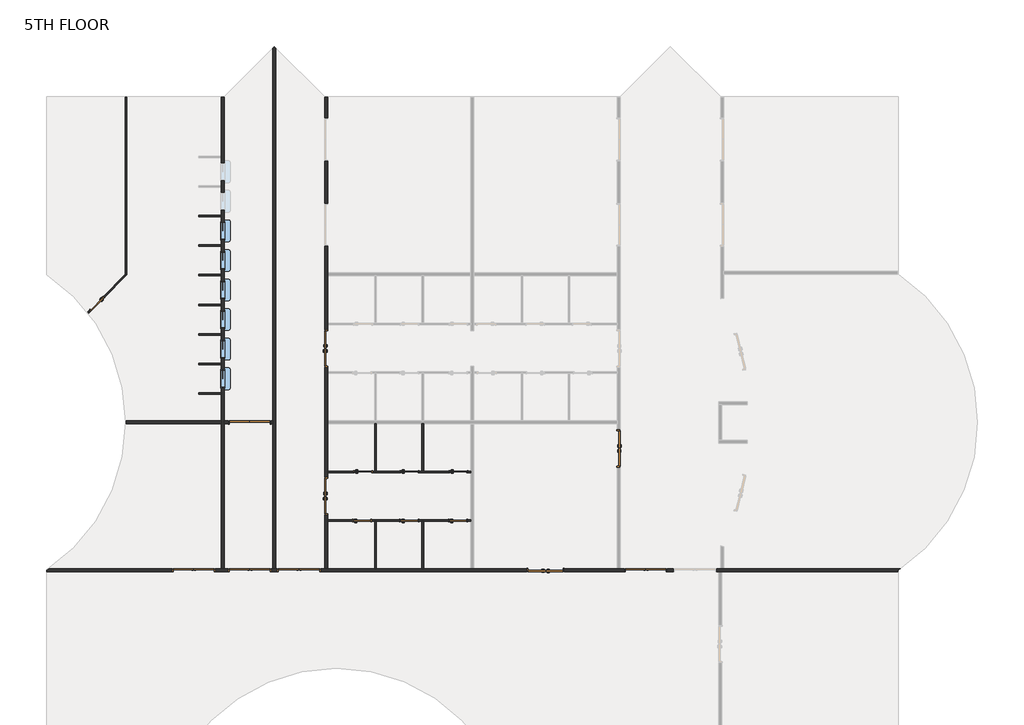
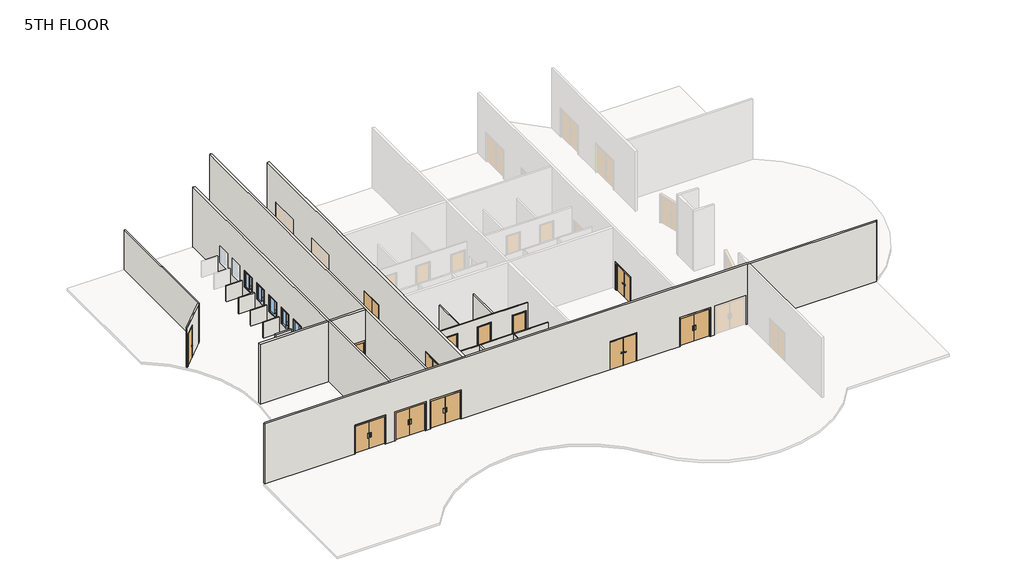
# One storey, part 1 of 2: 20 walls, 16 doors, 6 windows.
"""IFC4 building model written with IfcOpenShell, lengths in millimetres."""

from ifc_helpers import new_model, si_unit, point, frame, frame_2d, origin, place, context, project, spatial, polyline, circle_curve, trimmed, segment, composite_curve, outline, extrude, faceted_brep, transform, mapped, element, save
from ifc_brep_helpers import plane_surface, cylinder_surface, revolved_surface, advanced_brep
from components import door_2f250f70, door_0b13e4d9, door_b3a27a16, door_979b1b8c, door_f8b587be, pass_thru_4x3_19d81059

model = new_model("IFC4")

# Units and contexts
model_context = context("Model", 3, world=origin())
ifc_project = project(units=[si_unit("LENGTHUNIT", "METRE", prefix="MILLI")], contexts=[model_context])

# Site, building, storey
site = spatial("IfcSite", under=ifc_project)
building = spatial("IfcBuilding", under=site)
storey = spatial("IfcBuildingStorey", under=building, Name="5TH FLOOR", Elevation=22860.0)

# Doors
placement = place(None, origin())
door_shape = door_2f250f70(model_context)
element("IfcDoor", 1, ObjectType="Door-Passage-Double-Flush : 72\" x 82\"", at=placement, inside=storey, context=model_context, shape_type="MappedRepresentation", body=[
    mapped(door_shape, transform((14556.3400257, 13109.575, 22860.0), x_axis=(0.0, 1.0, 0.0), y_axis=(-1.0, 0.0, 0.0), z_axis=(0.0, 0.0, 1.0))),
])
element("IfcDoor", 2, ObjectType="Door-Passage-Double-Flush : 72\" x 82\"", at=placement, inside=storey, context=model_context, shape_type="MappedRepresentation", body=[
    mapped(door_shape, transform((14556.3400257, 20729.575, 22860.0), x_axis=(0.0, 1.0, 0.0), y_axis=(-1.0, 0.0, 0.0), z_axis=(0.0, 0.0, 1.0))),
])
element("IfcDoor", 3, ObjectType="Door-Passage-Double-Flush : 72\" x 82\"", at=placement, inside=storey, context=model_context, shape_type="MappedRepresentation", body=[
    mapped(door_shape, transform((25872.8337757, 9305.925, 22860.0), x_axis=(-1.0, 0.0, 0.0), y_axis=(0.0, -1.0, 0.0), z_axis=(0.0, 0.0, 1.0))),
])
element("IfcDoor", 4, ObjectType="Door-Passage-Double-Flush : 72\" x 82\"", at=placement, inside=storey, context=model_context, shape_type="MappedRepresentation", body=[
    mapped(door_shape, transform((29628.0650257, 15571.7875, 22860.0), x_axis=(0.0, -1.0, 0.0), y_axis=(1.0, 0.0, 0.0), z_axis=(0.0, 0.0, 1.0))),
])
door_2_shape = door_0b13e4d9(model_context)
element("IfcDoor", 5, ObjectType="Door-Passage-Double-Flush-Dbl_Acting : 84\" x 84\"", at=placement, inside=storey, context=model_context, shape_type="MappedRepresentation", body=[
    mapped(door_2_shape, transform((13151.4025257, 9293.225, 22860.0), x_axis=(-1.0, 0.0, 0.0), y_axis=(0.0, -1.0, 0.0), z_axis=(0.0, 0.0, 1.0))),
])
door_3_shape = door_b3a27a16(model_context)
element("IfcDoor", 6, ObjectType="Door-Passage-Double-Flush-Dbl_Acting : 84\" x 84\"", at=placement, inside=storey, context=model_context, shape_type="MappedRepresentation", body=[
    mapped(door_3_shape, transform((31033.0025257, 9293.225, 22860.0), x_axis=(1.0, 0.0, 0.0), y_axis=(0.0, 1.0, 0.0), z_axis=(0.0, 0.0, 1.0))),
])
element("IfcDoor", 7, ObjectType="Door-Passage-Double-Flush-Dbl_Acting : 84\" x 84\"", at=placement, inside=storey, context=model_context, shape_type="MappedRepresentation", body=[
    mapped(door_3_shape, transform((10620.375, 9293.225, 22860.0), x_axis=(1.0, 0.0, 0.0), y_axis=(0.0, 1.0, 0.0), z_axis=(0.0, 0.0, 1.0))),
])
element("IfcDoor", 8, ObjectType="Door-Passage-Double-Flush-Dbl_Acting : 84\" x 84\"", at=placement, inside=storey, context=model_context, shape_type="MappedRepresentation", body=[
    mapped(door_3_shape, transform((7730.5724743, 9293.225, 22860.0), x_axis=(1.0, 0.0, 0.0), y_axis=(0.0, 1.0, 0.0), z_axis=(0.0, 0.0, 1.0))),
])
element("IfcDoor", 9, ObjectType="Door-Passage-Double-Flush-Dbl_Acting : 84\" x 84\"", at=placement, inside=storey, context=model_context, shape_type="MappedRepresentation", body=[
    mapped(door_3_shape, transform((10620.375, 16913.225, 22860.0), x_axis=(1.0, 0.0, 0.0), y_axis=(0.0, 1.0, 0.0), z_axis=(0.0, 0.0, 1.0))),
])
door_4_shape = door_979b1b8c(model_context)
element("IfcDoor", 10, ObjectType="Door-Passage-Single-Flush : 36\" x 96\"", at=placement, inside=storey, context=model_context, shape_type="MappedRepresentation", body=[
    mapped(door_4_shape, transform((16456.5775257, 14357.35, 22860.0), x_axis=(1.0, 0.0, 0.0), y_axis=(0.0, 1.0, 0.0), z_axis=(0.0, 0.0, 1.0))),
])
element("IfcDoor", 11, ObjectType="Door-Passage-Single-Flush : 36\" x 96\"", at=placement, inside=storey, context=model_context, shape_type="MappedRepresentation", body=[
    mapped(door_4_shape, transform((18855.2900257, 14357.35, 22860.0), x_axis=(1.0, 0.0, 0.0), y_axis=(0.0, 1.0, 0.0), z_axis=(0.0, 0.0, 1.0))),
])
element("IfcDoor", 12, ObjectType="Door-Passage-Single-Flush : 36\" x 96\"", at=placement, inside=storey, context=model_context, shape_type="MappedRepresentation", body=[
    mapped(door_4_shape, transform((21373.0650257, 14357.35, 22860.0), x_axis=(1.0, 0.0, 0.0), y_axis=(0.0, 1.0, 0.0), z_axis=(0.0, 0.0, 1.0))),
])
element("IfcDoor", 13, ObjectType="Door-Passage-Single-Flush : 36\" x 96\"", at=placement, inside=storey, context=model_context, shape_type="MappedRepresentation", body=[
    mapped(door_4_shape, transform((2731.3607977, 23031.2061406, 22860.0), x_axis=(-0.7071067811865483, -0.7071067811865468, 0.0), y_axis=(0.7071067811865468, -0.7071067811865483, 0.0), z_axis=(0.0, 0.0, 1.0))),
])
door_5_shape = door_f8b587be(model_context)
element("IfcDoor", 14, ObjectType="Door-Passage-Single-Flush : 36\" x 96\"", at=placement, inside=storey, context=model_context, shape_type="MappedRepresentation", body=[
    mapped(door_5_shape, transform((16405.7775257, 11861.8, 22860.0), x_axis=(1.0, 0.0, 0.0), y_axis=(0.0, 1.0, 0.0), z_axis=(0.0, 0.0, 1.0))),
])
element("IfcDoor", 15, ObjectType="Door-Passage-Single-Flush : 36\" x 96\"", at=placement, inside=storey, context=model_context, shape_type="MappedRepresentation", body=[
    mapped(door_5_shape, transform((18836.2400257, 11861.8, 22860.0), x_axis=(1.0, 0.0, 0.0), y_axis=(0.0, 1.0, 0.0), z_axis=(0.0, 0.0, 1.0))),
])
element("IfcDoor", 16, ObjectType="Door-Passage-Single-Flush : 36\" x 96\"", at=placement, inside=storey, context=model_context, shape_type="MappedRepresentation", body=[
    mapped(door_5_shape, transform((21354.0150257, 11861.8, 22860.0), x_axis=(1.0, 0.0, 0.0), y_axis=(0.0, 1.0, 0.0), z_axis=(0.0, 0.0, 1.0))),
])

# Walls
element("IfcWall", 17, ObjectType="SYR_INT_ONE_HOUR", at=placement, inside=storey, context=model_context, shape_type="SweptSolid", body=[
    extrude(outline(polyline([(17066.1775257, 14403.3875), (17066.1775257, 16841.7875), (17145.5525257, 16841.7875), (17145.5525257, 14403.3875), (17066.1775257, 14403.3875)])), frame((0.0, 0.0, 22860.0), z_axis=(0.0, 0.0, 1.0), x_axis=(1.0, 0.0, 0.0)), (0.0, 0.0, 1.0), 3048.0),
])
element("IfcWall", 18, ObjectType="SYR_INT_ONE_HOUR", at=placement, inside=storey, context=model_context, shape_type="SweptSolid", body=[
    extrude(outline(polyline([(19576.0150257, 11815.7625), (19576.0150257, 9377.3625), (19496.6400257, 9377.3625), (19496.6400257, 11815.7625), (19576.0150257, 11815.7625)])), frame((0.0, 0.0, 22860.0), z_axis=(0.0, 0.0, 1.0), x_axis=(1.0, 0.0, 0.0)), (0.0, 0.0, 1.0), 3048.0),
])
element("IfcWall", 19, ObjectType="SYR_INT_ONE_HOUR", at=placement, inside=storey, context=model_context, shape_type="Brep", body=[
    faceted_brep([(14627.7775257, 14403.3875, 25908.0), (17066.1775257, 14403.3875, 25908.0), (17145.5525257, 14403.3875, 25908.0), (19496.6400257, 14403.3875, 25908.0), (19576.0150257, 14403.3875, 25908.0), (22014.4150257, 14403.3875, 25908.0), (22014.4150257, 14403.3875, 22860.0), (21862.0150257, 14403.3875, 22860.0), (21862.0150257, 14403.3875, 25330.15), (20884.1150257, 14403.3875, 25330.15), (20884.1150257, 14403.3875, 22860.0), (19576.0150257, 14403.3875, 22860.0), (19496.6400257, 14403.3875, 22860.0), (19344.2400257, 14403.3875, 22860.0), (19344.2400257, 14403.3875, 25330.15), (18366.3400257, 14403.3875, 25330.15), (18366.3400257, 14403.3875, 22860.0), (17145.5525257, 14403.3875, 22860.0), (17066.1775257, 14403.3875, 22860.0), (16945.5275257, 14403.3875, 22860.0), (16945.5275257, 14403.3875, 25330.15), (15967.6275257, 14403.3875, 25330.15), (15967.6275257, 14403.3875, 22860.0), (14627.7775257, 14403.3875, 22860.0), (22014.4150257, 14324.0125, 25908.0), (14627.7775257, 14324.0125, 25908.0), (14627.7775257, 14324.0125, 22860.0), (15967.6275257, 14324.0125, 22860.0), (15967.6275257, 14324.0125, 25330.15), (16945.5275257, 14324.0125, 25330.15), (16945.5275257, 14324.0125, 22860.0), (18366.3400257, 14324.0125, 22860.0), (18366.3400257, 14324.0125, 25330.15), (19344.2400257, 14324.0125, 25330.15), (19344.2400257, 14324.0125, 22860.0), (20884.1150257, 14324.0125, 22860.0), (20884.1150257, 14324.0125, 25330.15), (21862.0150257, 14324.0125, 25330.15), (21862.0150257, 14324.0125, 22860.0), (22014.4150257, 14324.0125, 22860.0)], [[[0, 1, 2, 3, 4, 5, 6, 7, 8, 9, 10, 11, 12, 13, 14, 15, 16, 17, 18, 19, 20, 21, 22, 23]], [[24, 25, 26, 27, 28, 29, 30, 31, 32, 33, 34, 35, 36, 37, 38, 39]], [[6, 39, 38, 7]], [[26, 23, 22, 27]], [[30, 19, 18, 17, 16, 31]], [[34, 13, 12, 11, 10, 35]], [[5, 4, 3, 2, 1, 0, 25, 24]], [[0, 23, 26, 25]], [[6, 5, 24, 39]], [[29, 20, 19, 30]], [[20, 29, 28, 21]], [[21, 28, 27, 22]], [[14, 13, 34, 33]], [[15, 14, 33, 32]], [[16, 15, 32, 31]], [[37, 8, 7, 38]], [[8, 37, 36, 9]], [[9, 36, 35, 10]]]),
])
element("IfcWall", 20, ObjectType="SYR_INT_ONE_HOUR", at=placement, inside=storey, context=model_context, shape_type="Brep", body=[
    faceted_brep([(14627.7775257, 11895.1375, 25908.0), (22014.4150257, 11895.1375, 25908.0), (22014.4150257, 11895.1375, 22860.0), (21842.9650257, 11895.1375, 22860.0), (21842.9650257, 11895.1375, 25330.15), (20865.0650257, 11895.1375, 25330.15), (20865.0650257, 11895.1375, 22860.0), (19325.1900257, 11895.1375, 22860.0), (19325.1900257, 11895.1375, 25330.15), (18347.2900257, 11895.1375, 25330.15), (18347.2900257, 11895.1375, 22860.0), (16894.7275257, 11895.1375, 22860.0), (16894.7275257, 11895.1375, 25330.15), (15916.8275257, 11895.1375, 25330.15), (15916.8275257, 11895.1375, 22860.0), (14627.7775257, 11895.1375, 22860.0), (22014.4150257, 11815.7625, 25908.0), (19576.0150257, 11815.7625, 25908.0), (19496.6400257, 11815.7625, 25908.0), (17145.5525257, 11815.7625, 25908.0), (17066.1775257, 11815.7625, 25908.0), (14627.7775257, 11815.7625, 25908.0), (14627.7775257, 11815.7625, 22860.0), (15916.8275257, 11815.7625, 22860.0), (15916.8275257, 11815.7625, 25330.15), (16894.7275257, 11815.7625, 25330.15), (16894.7275257, 11815.7625, 22860.0), (17066.1775257, 11815.7625, 22860.0), (17145.5525257, 11815.7625, 22860.0), (18347.2900257, 11815.7625, 22860.0), (18347.2900257, 11815.7625, 25330.15), (19325.1900257, 11815.7625, 25330.15), (19325.1900257, 11815.7625, 22860.0), (19496.6400257, 11815.7625, 22860.0), (19576.0150257, 11815.7625, 22860.0), (20865.0650257, 11815.7625, 22860.0), (20865.0650257, 11815.7625, 25330.15), (21842.9650257, 11815.7625, 25330.15), (21842.9650257, 11815.7625, 22860.0), (22014.4150257, 11815.7625, 22860.0)], [[[0, 1, 2, 3, 4, 5, 6, 7, 8, 9, 10, 11, 12, 13, 14, 15]], [[16, 17, 18, 19, 20, 21, 22, 23, 24, 25, 26, 27, 28, 29, 30, 31, 32, 33, 34, 35, 36, 37, 38, 39]], [[2, 39, 38, 3]], [[22, 15, 14, 23]], [[26, 11, 10, 29, 28, 27]], [[32, 7, 6, 35, 34, 33]], [[1, 0, 21, 20, 19, 18, 17, 16]], [[0, 15, 22, 21]], [[2, 1, 16, 39]], [[25, 12, 11, 26]], [[12, 25, 24, 13]], [[13, 24, 23, 14]], [[31, 8, 7, 32]], [[8, 31, 30, 9]], [[9, 30, 29, 10]], [[37, 4, 3, 38]], [[4, 37, 36, 5]], [[5, 36, 35, 6]]]),
])
element("IfcWall", 21, ObjectType="SYR_INT_ONE_HOUR", at=placement, inside=storey, context=model_context, shape_type="SweptSolid", body=[
    extrude(outline(polyline([(17066.1775257, 9377.3625), (17066.1775257, 11815.7625), (17145.5525257, 11815.7625), (17145.5525257, 9377.3625), (17066.1775257, 9377.3625)])), frame((0.0, 0.0, 22860.0), z_axis=(0.0, 0.0, 1.0), x_axis=(1.0, 0.0, 0.0)), (0.0, 0.0, 1.0), 3048.0),
])
element("IfcWall", 22, ObjectType="SYR_INT_ONE_HOUR", at=placement, inside=storey, context=model_context, shape_type="SweptSolid", body=[
    extrude(outline(polyline([(19576.0150257, 16841.7875), (19576.0150257, 14403.3875), (19496.6400257, 14403.3875), (19496.6400257, 16841.7875), (19576.0150257, 16841.7875)])), frame((0.0, 0.0, 22860.0), z_axis=(0.0, 0.0, 1.0), x_axis=(1.0, 0.0, 0.0)), (0.0, 0.0, 1.0), 3048.0),
])
element("IfcWall", 23, ObjectType="SYR_INT_ONE_HOUR", at=placement, inside=storey, context=model_context, shape_type="SweptSolid", body=[
    extrude(outline(polyline([(7979.2710938, 18443.575), (9144.0, 18443.575), (9144.0, 18364.2), (7979.2710938, 18364.2), (7979.2710938, 18443.575)])), frame((0.0, 0.0, 22860.0), z_axis=(0.0, 0.0, 1.0), x_axis=(1.0, 0.0, 0.0)), (0.0, 0.0, 1.0), 1219.2),
])
element("IfcWall", 24, ObjectType="SYR_INT_ONE_HOUR", at=placement, inside=storey, context=model_context, shape_type="SweptSolid", body=[
    extrude(outline(polyline([(7979.2710938, 19967.575), (9144.0, 19967.575), (9144.0, 19888.2), (7979.2710938, 19888.2), (7979.2710938, 19967.575)])), frame((0.0, 0.0, 22860.0), z_axis=(0.0, 0.0, 1.0), x_axis=(1.0, 0.0, 0.0)), (0.0, 0.0, 1.0), 1219.2),
])
element("IfcWall", 25, ObjectType="SYR_INT_ONE_HOUR", at=placement, inside=storey, context=model_context, shape_type="SweptSolid", body=[
    extrude(outline(polyline([(7979.2710938, 21491.575), (9144.0, 21491.575), (9144.0, 21412.2), (7979.2710938, 21412.2), (7979.2710938, 21491.575)])), frame((0.0, 0.0, 22860.0), z_axis=(0.0, 0.0, 1.0), x_axis=(1.0, 0.0, 0.0)), (0.0, 0.0, 1.0), 1219.2),
])
element("IfcWall", 26, ObjectType="SYR_INT_ONE_HOUR", at=placement, inside=storey, context=model_context, shape_type="SweptSolid", body=[
    extrude(outline(polyline([(7979.2710938, 23015.575), (9144.0, 23015.575), (9144.0, 22936.2), (7979.2710938, 22936.2), (7979.2710938, 23015.575)])), frame((0.0, 0.0, 22860.0), z_axis=(0.0, 0.0, 1.0), x_axis=(1.0, 0.0, 0.0)), (0.0, 0.0, 1.0), 1219.2),
])
element("IfcWall", 27, ObjectType="SYR_INT_ONE_HOUR", at=placement, inside=storey, context=model_context, shape_type="SweptSolid", body=[
    extrude(outline(polyline([(7979.2710938, 24539.575), (9144.0, 24539.575), (9144.0, 24460.2), (7979.2710938, 24460.2), (7979.2710938, 24539.575)])), frame((0.0, 0.0, 22860.0), z_axis=(0.0, 0.0, 1.0), x_axis=(1.0, 0.0, 0.0)), (0.0, 0.0, 1.0), 1219.2),
])
element("IfcWall", 28, ObjectType="SYR_INT_ONE_HOUR", at=placement, inside=storey, context=model_context, shape_type="SweptSolid", body=[
    extrude(outline(polyline([(7979.2710938, 26063.575), (9144.0, 26063.575), (9144.0, 25984.2), (7979.2710938, 25984.2), (7979.2710938, 26063.575)])), frame((0.0, 0.0, 22860.0), z_axis=(0.0, 0.0, 1.0), x_axis=(1.0, 0.0, 0.0)), (0.0, 0.0, 1.0), 1219.2),
])
element("IfcWall", 29, ObjectType="SYR_INT_ONE_HOUR", at=placement, inside=storey, context=model_context, shape_type="SweptSolid", body=[
    extrude(outline(polyline([(7979.2710938, 27587.575), (9144.0, 27587.575), (9144.0, 27508.2), (7979.2710938, 27508.2), (7979.2710938, 27587.575)])), frame((0.0, 0.0, 22860.0), z_axis=(0.0, 0.0, 1.0), x_axis=(1.0, 0.0, 0.0)), (0.0, 0.0, 1.0), 1219.2),
])
element("IfcWall", 30, ObjectType="SYR_INT_ONE_HOUR", at=placement, inside=storey, context=model_context, shape_type="Brep", body=[
    faceted_brep([(4209.0224132, 33683.575, 22860.0), (4209.0224132, 24556.0141008, 22860.0), (4209.0224132, 24443.7608992, 22860.0), (4209.0224132, 24443.7608992, 25908.0), (4209.0224132, 24556.0141008, 25908.0), (4209.0224132, 33683.575, 25908.0), (4288.3974132, 33683.575, 22860.0), (4288.3974132, 33683.575, 25908.0), (4288.3974132, 24523.1358992, 25908.0), (4288.3974132, 24523.1358992, 22860.0)], [[[0, 1, 2, 3, 4, 5]], [[6, 7, 8, 9]], [[2, 1, 0, 6, 9]], [[5, 4, 3, 8, 7]], [[3, 2, 9, 8]], [[0, 5, 7, 6]]]),
])
element("IfcWall", 31, ObjectType="SYR_INT_ONE_HOUR", at=placement, inside=storey, context=model_context, shape_type="AdvancedBrep", body=[
    advanced_brep(
    [(2260.5955581, 22607.5872456, 25908.0), (4209.0224132, 24556.0141008, 25908.0), (4209.0224132, 24556.0141008, 22860.0), (3053.527486, 23400.5191735, 22860.0), (3053.527486, 23400.5191735, 25330.15), (2362.0477647, 22709.0394522, 25330.15), (2362.0477647, 22709.0394522, 22860.0), (2260.5955581, 22607.5872456, 22860.0), (4209.0224132, 24443.7608992, 25908.0), (2310.04482, 22544.783306, 25908.0), (2310.04482, 22544.783306, 22860.0), (2418.1743655, 22652.9128515, 22860.0), (2418.1743655, 22652.9128515, 25330.15), (3109.6540868, 23344.3925728, 25330.15), (3109.6540868, 23344.3925728, 22860.0), (4209.0224132, 24443.7608992, 22860.0)],
    [
        (0, 1),
        (1, 2),
        (2, 3),
        (3, 4),
        (4, 5),
        (5, 6),
        (6, 7),
        (7, 0),
        (8, 9),
        (9, 10),
        (10, 11),
        (11, 12),
        (12, 13),
        (13, 14),
        (14, 15),
        (15, 8),
        (2, 15),
        (14, 3),
        (10, 7, circle_curve(frame((-4898.9611805, 16919.575, 22860.0), z_axis=(0.0, 0.0, 1.0), x_axis=(1.0, 0.0, 0.0)), 9144.0)),
        (6, 11),
        (0, 9, circle_curve(frame((-4898.9611805, 16919.575, 25908.0), z_axis=(0.0, 0.0, -1.0), x_axis=(1.0, 0.0, 0.0)), 9144.0)),
        (8, 1),
        (5, 12),
        (4, 13),
    ],
    [
        plane_surface(frame((4220.6466129, 24567.6383004, 22860.0), z_axis=(-0.7071067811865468, 0.7071067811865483, 0.0), x_axis=(-0.7071067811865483, -0.7071067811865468, 0.0))),
        plane_surface(frame((4276.7732136, 24511.5116996, 22860.0), z_axis=(0.7071067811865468, -0.7071067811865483, 0.0), x_axis=(0.7071067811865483, 0.7071067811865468, 0.0))),
        plane_surface(frame((4220.6466129, 24567.6383004, 22860.0), z_axis=(0.0, 0.0, -1.0), x_axis=(0.7071067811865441, -0.7071067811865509, 0.0))),
        plane_surface(frame((2146.5216178, 22493.5133053, 25908.0), z_axis=(0.0, 0.0, 1.0000000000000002), x_axis=(0.7071067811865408, -0.7071067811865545, 0.0))),
        plane_surface(frame((4209.0224132, 33778.5769531, 22860.0), z_axis=(1.0, 0.0, 0.0), x_axis=(0.0, -1.0, 0.0))),
        plane_surface(frame((1284.4170302, 23786.6701867, 22860.0), z_axis=(0.7071067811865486, 0.7071067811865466, 0.0), x_axis=(0.7071067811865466, -0.7071067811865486, 0.0))),
        plane_surface(frame((1284.4170302, 23786.6701867, 25330.15), z_axis=(0.0, 0.0, -1.0), x_axis=(0.7071067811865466, -0.7071067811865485, 0.0))),
        plane_surface(frame((1975.8967515, 24478.1499081, 25330.15), z_axis=(-0.7071067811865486, -0.7071067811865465, 0.0), x_axis=(0.7071067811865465, -0.7071067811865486, 0.0))),
        revolved_surface(polyline([(4245.0388195, 16919.575, 25908.0), (4245.0388195, 16919.575, 22860.0)]), (-4898.9611805, 16919.575, 0.0), (0.0, 0.0, 1.0)),
    ],
    [
        (0, [[1, 2, 3, 4, 5, 6, 7, 8]]),
        (1, [[9, 10, 11, 12, 13, 14, 15, 16]]),
        (2, [[17, -15, 18, -3]]),
        (2, [[19, -7, 20, -11]]),
        (3, [[-1, 21, -9, 22]]),
        (4, [[-2, -22, -16, -17]]),
        (5, [[23, -12, -20, -6]]),
        (6, [[-23, -5, 24, -13]]),
        (7, [[-24, -4, -18, -14]]),
        (8, [[-8, -19, -10, -21]]),
    ],
),
])
element("IfcWall", 32, ObjectType="SYR_INT_TWO_HOUR", at=placement, inside=storey, context=model_context, shape_type="AdvancedBrep", body=[
    advanced_brep(
    [(270.9292057, 9377.3625, 27432.0), (9144.0, 9377.3625, 27432.0), (9299.575, 9377.3625, 27432.0), (11808.1012629, 9377.3625, 27432.0), (11963.6762629, 9377.3625, 27432.0), (14472.2025257, 9377.3625, 27432.0), (14627.7775257, 9377.3625, 27432.0), (22014.4150257, 9377.3625, 27432.0), (22169.9900257, 9377.3625, 27432.0), (29556.6275257, 9377.3625, 27432.0), (29712.2025257, 9377.3625, 27432.0), (34884.8300515, 9377.3625, 27432.0), (35040.4050515, 9377.3625, 27432.0), (44144.1842571, 9377.3625, 27432.0), (44144.1842571, 9377.3625, 22860.0), (35040.4050515, 9377.3625, 22860.0), (34884.8300515, 9377.3625, 22860.0), (34681.6300515, 9377.3625, 22860.0), (34681.6300515, 9377.3625, 25095.2), (32446.4300515, 9377.3625, 25095.2), (32446.4300515, 9377.3625, 22860.0), (32150.6025257, 9377.3625, 22860.0), (32150.6025257, 9377.3625, 25095.2), (29915.4025257, 9377.3625, 25095.2), (29915.4025257, 9377.3625, 22860.0), (29712.2025257, 9377.3625, 22860.0), (29556.6275257, 9377.3625, 22860.0), (26838.0337757, 9377.3625, 22860.0), (26838.0337757, 9377.3625, 25044.4), (24907.6337757, 9377.3625, 25044.4), (24907.6337757, 9377.3625, 22860.0), (22169.9900257, 9377.3625, 22860.0), (22014.4150257, 9377.3625, 22860.0), (19576.0150257, 9377.3625, 22860.0), (19496.6400257, 9377.3625, 22860.0), (17145.5525257, 9377.3625, 22860.0), (17066.1775257, 9377.3625, 22860.0), (14627.7775257, 9377.3625, 22860.0), (14472.2025257, 9377.3625, 22860.0), (14269.0025257, 9377.3625, 22860.0), (14269.0025257, 9377.3625, 25095.2), (12033.8025257, 9377.3625, 25095.2), (12033.8025257, 9377.3625, 22860.0), (11963.6762629, 9377.3625, 22860.0), (11808.1012629, 9377.3625, 22860.0), (11737.975, 9377.3625, 22860.0), (11737.975, 9377.3625, 25095.2), (9502.775, 9377.3625, 25095.2), (9502.775, 9377.3625, 22860.0), (9299.575, 9377.3625, 22860.0), (9144.0, 9377.3625, 22860.0), (8848.1724743, 9377.3625, 22860.0), (8848.1724743, 9377.3625, 25095.2), (6612.9724743, 9377.3625, 25095.2), (6612.9724743, 9377.3625, 22860.0), (270.9292057, 9377.3625, 22860.0), (155.575, 9221.7875, 27432.0), (155.575, 9221.7875, 22860.0), (6612.9724743, 9221.7875, 22860.0), (6612.9724743, 9221.7875, 25095.2), (8848.1724743, 9221.7875, 25095.2), (8848.1724743, 9221.7875, 22860.0), (9502.775, 9221.7875, 22860.0), (9502.775, 9221.7875, 25095.2), (11737.975, 9221.7875, 25095.2), (11737.975, 9221.7875, 22860.0), (12033.8025257, 9221.7875, 22860.0), (12033.8025257, 9221.7875, 25095.2), (14269.0025257, 9221.7875, 25095.2), (14269.0025257, 9221.7875, 22860.0), (24907.6337757, 9221.7875, 22860.0), (24907.6337757, 9221.7875, 25044.4), (26838.0337757, 9221.7875, 25044.4), (26838.0337757, 9221.7875, 22860.0), (29915.4025257, 9221.7875, 22860.0), (29915.4025257, 9221.7875, 25095.2), (32150.6025257, 9221.7875, 25095.2), (32150.6025257, 9221.7875, 22860.0), (32446.4300515, 9221.7875, 22860.0), (32446.4300515, 9221.7875, 25095.2), (34681.6300515, 9221.7875, 25095.2), (34681.6300515, 9221.7875, 22860.0), (34803.3714577, 9221.7875, 22860.0), (34958.9464577, 9221.7875, 22860.0), (44028.8300515, 9221.7875, 22860.0), (44028.8300515, 9221.7875, 27432.0), (34958.9464577, 9221.7875, 27432.0), (34803.3714577, 9221.7875, 27432.0), (44028.8300515, 9299.575, 22860.0), (155.575, 9299.575, 22860.0), (155.575, 9299.575, 27432.0), (44028.8300515, 9299.575, 27432.0)],
    [
        (0, 1),
        (1, 2),
        (2, 3),
        (3, 4),
        (4, 5),
        (5, 6),
        (6, 7),
        (7, 8),
        (8, 9),
        (9, 10),
        (10, 11),
        (11, 12),
        (12, 13),
        (13, 14),
        (14, 15),
        (15, 16),
        (16, 17),
        (17, 18),
        (18, 19),
        (19, 20),
        (20, 21),
        (21, 22),
        (22, 23),
        (23, 24),
        (24, 25),
        (25, 26),
        (26, 27),
        (27, 28),
        (28, 29),
        (29, 30),
        (30, 31),
        (31, 32),
        (32, 33),
        (33, 34),
        (34, 35),
        (35, 36),
        (36, 37),
        (37, 38),
        (38, 39),
        (39, 40),
        (40, 41),
        (41, 42),
        (42, 43),
        (43, 44),
        (44, 45),
        (45, 46),
        (46, 47),
        (47, 48),
        (48, 49),
        (49, 50),
        (50, 51),
        (51, 52),
        (52, 53),
        (53, 54),
        (54, 55),
        (55, 0),
        (56, 57),
        (57, 58),
        (58, 59),
        (59, 60),
        (60, 61),
        (61, 62),
        (62, 63),
        (63, 64),
        (64, 65),
        (65, 66),
        (66, 67),
        (67, 68),
        (68, 69),
        (69, 70),
        (70, 71),
        (71, 72),
        (72, 73),
        (73, 74),
        (74, 75),
        (75, 76),
        (76, 77),
        (77, 78),
        (78, 79),
        (79, 80),
        (80, 81),
        (81, 82),
        (82, 83),
        (83, 84),
        (84, 85),
        (85, 86),
        (86, 87),
        (87, 56),
        (20, 78),
        (77, 21),
        (81, 17),
        (14, 88, circle_curve(frame((38974.293871, 16919.575, 22860.0), z_axis=(0.0, 0.0, -1.0), x_axis=(0.8333333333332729, 0.5527707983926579, 0.0)), 9144.0)),
        (88, 84),
        (24, 74),
        (73, 27),
        (42, 66),
        (65, 45),
        (69, 39),
        (30, 70),
        (48, 62),
        (61, 51),
        (54, 58),
        (57, 89),
        (89, 55, circle_curve(frame((-4898.9611805, 16919.575, 22860.0), z_axis=(0.0, 0.0, 1.0), x_axis=(0.8333333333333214, 0.5527707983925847, 0.0)), 9144.0)),
        (0, 90, circle_curve(frame((-4898.9611805, 16919.575, 27432.0), z_axis=(0.0, 0.0, -1.0), x_axis=(0.8333333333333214, 0.5527707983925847, 0.0)), 9144.0)),
        (90, 56),
        (85, 91),
        (91, 13, circle_curve(frame((38974.293871, 16919.575, 27432.0), z_axis=(0.0, 0.0, 1.0), x_axis=(0.8333333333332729, 0.5527707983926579, 0.0)), 9144.0)),
        (19, 79),
        (18, 80),
        (76, 22),
        (75, 23),
        (41, 67),
        (40, 68),
        (64, 46),
        (63, 47),
        (60, 52),
        (59, 53),
        (29, 71),
        (28, 72),
        (89, 90),
        (91, 88),
    ],
    [
        plane_surface(frame((44028.8300515, 9377.3625, 22860.0), z_axis=(0.0, 1.0, 0.0), x_axis=(-1.0, 0.0, 0.0))),
        plane_surface(frame((44028.8300515, 9221.7875, 22860.0), z_axis=(0.0, -1.0, 0.0), x_axis=(1.0, 0.0, 0.0))),
        plane_surface(frame((44305.118871, 9377.3625, 22860.0), z_axis=(0.0, 0.0, -1.0), x_axis=(0.0, -1.0, 0.0))),
        plane_surface(frame((0.0, 9377.3625, 27432.0), z_axis=(0.0, 0.0, 1.0), x_axis=(0.0, -1.0, 0.0))),
        plane_surface(frame((32446.4300515, 10745.7875, 22860.0), z_axis=(1.0, 0.0, 0.0), x_axis=(0.0, -1.0, 0.0))),
        plane_surface(frame((32446.4300515, 10745.7875, 25095.2), z_axis=(0.0, 0.0, -1.0), x_axis=(0.0, -1.0, 0.0))),
        plane_surface(frame((34681.6300515, 10745.7875, 25095.2), z_axis=(-1.0, 0.0, 0.0), x_axis=(0.0, -1.0, 0.0))),
        plane_surface(frame((32150.6025257, 7697.7875, 22860.0), z_axis=(-1.0, 0.0, 0.0), x_axis=(0.0, 1.0, 0.0))),
        plane_surface(frame((32150.6025257, 7697.7875, 25095.2), z_axis=(0.0, 0.0, -1.0), x_axis=(0.0, 1.0, 0.0))),
        plane_surface(frame((29915.4025257, 7697.7875, 25095.2), z_axis=(1.0, 0.0, 0.0), x_axis=(0.0, 1.0, 0.0))),
        plane_surface(frame((12033.8025257, 10745.7875, 22860.0), z_axis=(1.0, 0.0, 0.0), x_axis=(0.0, -1.0, 0.0))),
        plane_surface(frame((12033.8025257, 10745.7875, 25095.2), z_axis=(0.0, 0.0, -1.0), x_axis=(0.0, -1.0, 0.0))),
        plane_surface(frame((14269.0025257, 10745.7875, 25095.2), z_axis=(-1.0, 0.0, 0.0), x_axis=(0.0, -1.0, 0.0))),
        plane_surface(frame((11737.975, 7697.7875, 22860.0), z_axis=(-1.0, 0.0, 0.0), x_axis=(0.0, 1.0, 0.0))),
        plane_surface(frame((11737.975, 7697.7875, 25095.2), z_axis=(0.0, 0.0, -1.0), x_axis=(0.0, 1.0, 0.0))),
        plane_surface(frame((9502.775, 7697.7875, 25095.2), z_axis=(1.0, 0.0, 0.0), x_axis=(0.0, 1.0, 0.0))),
        plane_surface(frame((8848.1724743, 7697.7875, 22860.0), z_axis=(-1.0, 0.0, 0.0), x_axis=(0.0, 1.0, 0.0))),
        plane_surface(frame((8848.1724743, 7697.7875, 25095.2), z_axis=(0.0, 0.0, -1.0), x_axis=(0.0, 1.0, 0.0))),
        plane_surface(frame((6612.9724743, 7697.7875, 25095.2), z_axis=(1.0, 0.0, 0.0), x_axis=(0.0, 1.0, 0.0))),
        plane_surface(frame((24907.6337757, 10901.3625, 22860.0), z_axis=(1.0, 0.0, 0.0), x_axis=(0.0, -1.0, 0.0))),
        plane_surface(frame((24907.6337757, 10901.3625, 25044.4), z_axis=(0.0, 0.0, -1.0), x_axis=(0.0, -1.0, 0.0))),
        plane_surface(frame((26838.0337757, 10901.3625, 25044.4), z_axis=(-1.0, 0.0, 0.0), x_axis=(0.0, -1.0, 0.0))),
        revolved_surface(polyline([(2721.0388194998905, 21974.111180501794, 27432.0), (2721.0388194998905, 21974.111180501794, 22860.0)]), (-4898.9611805, 16919.575, 22631.4), (0.0, 0.0, 1.0)),
        plane_surface(frame((155.575, -12852.9844355, 22631.4), z_axis=(-1.0, 0.0, 0.0), x_axis=(0.0, -1.0, 0.0))),
        cylinder_surface(frame((38974.293871, 16919.575, 22631.4), z_axis=(0.0, 0.0, 1.0), x_axis=(0.8333333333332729, 0.5527707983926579, 0.0)), 9144.0),
        plane_surface(frame((44028.8300515, -12852.9844355, 22631.4), z_axis=(1.0, 0.0, 0.0), x_axis=(0.0, 1.0, 0.0))),
    ],
    [
        (0, [[1, 2, 3, 4, 5, 6, 7, 8, 9, 10, 11, 12, 13, 14, 15, 16, 17, 18, 19, 20, 21, 22, 23, 24, 25, 26, 27, 28, 29, 30, 31, 32, 33, 34, 35, 36, 37, 38, 39, 40, 41, 42, 43, 44, 45, 46, 47, 48, 49, 50, 51, 52, 53, 54, 55, 56]]),
        (1, [[57, 58, 59, 60, 61, 62, 63, 64, 65, 66, 67, 68, 69, 70, 71, 72, 73, 74, 75, 76, 77, 78, 79, 80, 81, 82, 83, 84, 85, 86, 87, 88]]),
        (2, [[89, -78, 90, -21]]),
        (2, [[91, -17, -16, -15, 92, 93, -84, -83, -82]]),
        (2, [[94, -74, 95, -27, -26, -25]]),
        (2, [[96, -66, 97, -45, -44, -43]]),
        (2, [[98, -39, -38, -37, -36, -35, -34, -33, -32, -31, 99, -70]]),
        (2, [[100, -62, 101, -51, -50, -49]]),
        (2, [[-55, 102, -58, 103, 104]]),
        (3, [[-13, -12, -11, -10, -9, -8, -7, -6, -5, -4, -3, -2, -1, 105, 106, -88, -87, -86, 107, 108]]),
        (4, [[109, -79, -89, -20]]),
        (5, [[-109, -19, 110, -80]]),
        (6, [[-110, -18, -91, -81]]),
        (7, [[111, -22, -90, -77]]),
        (8, [[-111, -76, 112, -23]]),
        (9, [[-112, -75, -94, -24]]),
        (10, [[113, -67, -96, -42]]),
        (11, [[-113, -41, 114, -68]]),
        (12, [[-114, -40, -98, -69]]),
        (13, [[115, -46, -97, -65]]),
        (14, [[-115, -64, 116, -47]]),
        (15, [[-116, -63, -100, -48]]),
        (16, [[117, -52, -101, -61]]),
        (17, [[-117, -60, 118, -53]]),
        (18, [[-118, -59, -102, -54]]),
        (19, [[119, -71, -99, -30]]),
        (20, [[-119, -29, 120, -72]]),
        (21, [[-120, -28, -95, -73]]),
        (22, [[-56, -104, 121, -105]]),
        (23, [[-57, -106, -121, -103]]),
        (24, [[-14, -108, 122, -92]]),
        (25, [[-85, -93, -122, -107]]),
    ],
),
])
element("IfcWall", 33, ObjectType="SYR_INT_TWO_HOUR", at=placement, inside=storey, context=model_context, shape_type="Brep", body=[
    faceted_brep([(9144.0, 33683.575, 22860.0), (9144.0, 30635.575, 22860.0), (9144.0, 30556.2, 22860.0), (9144.0, 29111.575, 22860.0), (9144.0, 29032.2, 22860.0), (9144.0, 27587.575, 22860.0), (9144.0, 27508.2, 22860.0), (9144.0, 26063.575, 22860.0), (9144.0, 25984.2, 22860.0), (9144.0, 24539.575, 22860.0), (9144.0, 24460.2, 22860.0), (9144.0, 23015.575, 22860.0), (9144.0, 22936.2, 22860.0), (9144.0, 21491.575, 22860.0), (9144.0, 21412.2, 22860.0), (9144.0, 19967.575, 22860.0), (9144.0, 19888.2, 22860.0), (9144.0, 18443.575, 22860.0), (9144.0, 18364.2, 22860.0), (9144.0, 16997.3625, 22860.0), (9144.0, 16841.7875, 22860.0), (9144.0, 9377.3625, 22860.0), (9144.0, 9377.3625, 27432.0), (9144.0, 16841.7875, 27432.0), (9144.0, 16997.3625, 27432.0), (9144.0, 33683.575, 27432.0), (9144.0, 19623.0875, 24993.6), (9144.0, 18708.6875, 24993.6), (9144.0, 18708.6875, 23774.4), (9144.0, 19623.0875, 23774.4), (9144.0, 21147.0875, 24993.6), (9144.0, 20232.6875, 24993.6), (9144.0, 20232.6875, 23774.4), (9144.0, 21147.0875, 23774.4), (9144.0, 22671.0875, 24993.6), (9144.0, 21756.6875, 24993.6), (9144.0, 21756.6875, 23774.4), (9144.0, 22671.0875, 23774.4), (9144.0, 24195.0875, 24993.6), (9144.0, 23280.6875, 24993.6), (9144.0, 23280.6875, 23774.4), (9144.0, 24195.0875, 23774.4), (9144.0, 25719.0875, 24993.6), (9144.0, 24804.6875, 24993.6), (9144.0, 24804.6875, 23774.4), (9144.0, 25719.0875, 23774.4), (9144.0, 27243.0875, 24993.6), (9144.0, 26328.6875, 24993.6), (9144.0, 26328.6875, 23774.4), (9144.0, 27243.0875, 23774.4), (9144.0, 28767.0875, 24993.6), (9144.0, 27852.6875, 24993.6), (9144.0, 27852.6875, 23774.4), (9144.0, 28767.0875, 23774.4), (9144.0, 30291.0875, 24993.6), (9144.0, 29376.6875, 24993.6), (9144.0, 29376.6875, 23774.4), (9144.0, 30291.0875, 23774.4), (9299.575, 33683.575, 22860.0), (9299.575, 33683.575, 27432.0), (9299.575, 16997.3625, 27432.0), (9299.575, 16841.7875, 27432.0), (9299.575, 9377.3625, 27432.0), (9299.575, 9377.3625, 22860.0), (9299.575, 16841.7875, 22860.0), (9299.575, 16997.3625, 22860.0), (9299.575, 19623.0875, 24993.6), (9299.575, 19623.0875, 23774.4), (9299.575, 18708.6875, 23774.4), (9299.575, 18708.6875, 24993.6), (9299.575, 21147.0875, 24993.6), (9299.575, 21147.0875, 23774.4), (9299.575, 20232.6875, 23774.4), (9299.575, 20232.6875, 24993.6), (9299.575, 22671.0875, 24993.6), (9299.575, 22671.0875, 23774.4), (9299.575, 21756.6875, 23774.4), (9299.575, 21756.6875, 24993.6), (9299.575, 24195.0875, 24993.6), (9299.575, 24195.0875, 23774.4), (9299.575, 23280.6875, 23774.4), (9299.575, 23280.6875, 24993.6), (9299.575, 25719.0875, 24993.6), (9299.575, 25719.0875, 23774.4), (9299.575, 24804.6875, 23774.4), (9299.575, 24804.6875, 24993.6), (9299.575, 27243.0875, 24993.6), (9299.575, 27243.0875, 23774.4), (9299.575, 26328.6875, 23774.4), (9299.575, 26328.6875, 24993.6), (9299.575, 28767.0875, 24993.6), (9299.575, 28767.0875, 23774.4), (9299.575, 27852.6875, 23774.4), (9299.575, 27852.6875, 24993.6), (9299.575, 30291.0875, 24993.6), (9299.575, 30291.0875, 23774.4), (9299.575, 29376.6875, 23774.4), (9299.575, 29376.6875, 24993.6)], [[[0, 1, 2, 3, 4, 5, 6, 7, 8, 9, 10, 11, 12, 13, 14, 15, 16, 17, 18, 19, 20, 21, 22, 23, 24, 25], [26, 27, 28, 29], [30, 31, 32, 33], [34, 35, 36, 37], [38, 39, 40, 41], [42, 43, 44, 45], [46, 47, 48, 49], [50, 51, 52, 53], [54, 55, 56, 57]], [[58, 59, 60, 61, 62, 63, 64, 65], [66, 67, 68, 69], [70, 71, 72, 73], [74, 75, 76, 77], [78, 79, 80, 81], [82, 83, 84, 85], [86, 87, 88, 89], [90, 91, 92, 93], [94, 95, 96, 97]], [[21, 20, 19, 18, 17, 16, 15, 14, 13, 12, 11, 10, 9, 8, 7, 6, 5, 4, 3, 2, 1, 0, 58, 65, 64, 63]], [[25, 24, 23, 22, 62, 61, 60, 59]], [[22, 21, 63, 62]], [[67, 66, 26, 29]], [[68, 67, 29, 28]], [[69, 68, 28, 27]], [[66, 69, 27, 26]], [[71, 70, 30, 33]], [[72, 71, 33, 32]], [[73, 72, 32, 31]], [[70, 73, 31, 30]], [[75, 74, 34, 37]], [[76, 75, 37, 36]], [[77, 76, 36, 35]], [[74, 77, 35, 34]], [[79, 78, 38, 41]], [[80, 79, 41, 40]], [[81, 80, 40, 39]], [[78, 81, 39, 38]], [[83, 82, 42, 45]], [[84, 83, 45, 44]], [[85, 84, 44, 43]], [[82, 85, 43, 42]], [[87, 86, 46, 49]], [[88, 87, 49, 48]], [[89, 88, 48, 47]], [[86, 89, 47, 46]], [[91, 90, 50, 53]], [[92, 91, 53, 52]], [[93, 92, 52, 51]], [[90, 93, 51, 50]], [[95, 94, 54, 57]], [[96, 95, 57, 56]], [[97, 96, 56, 55]], [[94, 97, 55, 54]], [[0, 25, 59, 58]]]),
])
element("IfcWall", 34, ObjectType="SYR_INT_TWO_HOUR", at=placement, inside=storey, context=model_context, shape_type="Brep", body=[
    faceted_brep([(14472.2025257, 9377.3625, 27432.0), (14472.2025257, 33683.575, 27432.0), (14472.2025257, 33683.575, 22860.0), (14472.2025257, 32616.775, 22860.0), (14472.2025257, 32616.775, 25095.2), (14472.2025257, 30381.575, 25095.2), (14472.2025257, 30381.575, 22860.0), (14472.2025257, 28219.4, 22860.0), (14472.2025257, 28219.4, 25095.2), (14472.2025257, 25984.2, 25095.2), (14472.2025257, 25984.2, 22860.0), (14472.2025257, 21694.775, 22860.0), (14472.2025257, 21694.775, 25044.4), (14472.2025257, 19764.375, 25044.4), (14472.2025257, 19764.375, 22860.0), (14472.2025257, 14074.775, 22860.0), (14472.2025257, 14074.775, 25044.4), (14472.2025257, 12144.375, 25044.4), (14472.2025257, 12144.375, 22860.0), (14472.2025257, 9377.3625, 22860.0), (14627.7775257, 33683.575, 27432.0), (14627.7775257, 24617.3625, 27432.0), (14627.7775257, 24461.7875, 27432.0), (14627.7775257, 16997.3625, 27432.0), (14627.7775257, 16841.7875, 27432.0), (14627.7775257, 9377.3625, 27432.0), (14627.7775257, 9377.3625, 22860.0), (14627.7775257, 11815.7625, 22860.0), (14627.7775257, 11895.1375, 22860.0), (14627.7775257, 12144.375, 22860.0), (14627.7775257, 12144.375, 25044.4), (14627.7775257, 14074.775, 25044.4), (14627.7775257, 14074.775, 22860.0), (14627.7775257, 14324.0125, 22860.0), (14627.7775257, 14403.3875, 22860.0), (14627.7775257, 16841.7875, 22860.0), (14627.7775257, 16997.3625, 22860.0), (14627.7775257, 19435.7625, 22860.0), (14627.7775257, 19515.1375, 22860.0), (14627.7775257, 19764.375, 22860.0), (14627.7775257, 19764.375, 25044.4), (14627.7775257, 21694.775, 25044.4), (14627.7775257, 21694.775, 22860.0), (14627.7775257, 21944.0125, 22860.0), (14627.7775257, 22023.3875, 22860.0), (14627.7775257, 24461.7875, 22860.0), (14627.7775257, 24617.3625, 22860.0), (14627.7775257, 25984.2, 22860.0), (14627.7775257, 25984.2, 25095.2), (14627.7775257, 28219.4, 25095.2), (14627.7775257, 28219.4, 22860.0), (14627.7775257, 30381.575, 22860.0), (14627.7775257, 30381.575, 25095.2), (14627.7775257, 32616.775, 25095.2), (14627.7775257, 32616.775, 22860.0), (14627.7775257, 33683.575, 22860.0)], [[[0, 1, 2, 3, 4, 5, 6, 7, 8, 9, 10, 11, 12, 13, 14, 15, 16, 17, 18, 19]], [[20, 21, 22, 23, 24, 25, 26, 27, 28, 29, 30, 31, 32, 33, 34, 35, 36, 37, 38, 39, 40, 41, 42, 43, 44, 45, 46, 47, 48, 49, 50, 51, 52, 53, 54, 55]], [[26, 19, 18, 29, 28, 27]], [[32, 15, 14, 39, 38, 37, 36, 35, 34, 33]], [[42, 11, 10, 47, 46, 45, 44, 43]], [[3, 2, 55, 54]], [[6, 51, 50, 7]], [[1, 0, 25, 24, 23, 22, 21, 20]], [[0, 19, 26, 25]], [[31, 16, 15, 32]], [[16, 31, 30, 17]], [[17, 30, 29, 18]], [[41, 12, 11, 42]], [[12, 41, 40, 13]], [[13, 40, 39, 14]], [[53, 4, 3, 54]], [[4, 53, 52, 5]], [[5, 52, 51, 6]], [[49, 8, 7, 50]], [[8, 49, 48, 9]], [[9, 48, 47, 10]], [[2, 1, 20, 55]]]),
])
element("IfcWall", 35, ObjectType="SYR_INT_TWO_HOUR", at=placement, inside=storey, context=model_context, shape_type="Brep", body=[
    faceted_brep([(11963.6762629, 9377.3625, 22860.0), (11963.6762629, 36192.1012629, 22860.0), (11963.6762629, 36192.1012629, 27432.0), (11963.6762629, 9377.3625, 27432.0), (11808.1012629, 9377.3625, 22860.0), (11808.1012629, 9377.3625, 27432.0), (11808.1012629, 16841.7875, 27432.0), (11808.1012629, 16997.3625, 27432.0), (11808.1012629, 36192.1012629, 27432.0), (11808.1012629, 36192.1012629, 22860.0), (11808.1012629, 16997.3625, 22860.0), (11808.1012629, 16841.7875, 22860.0), (11885.8887629, 36269.8887629, 22860.0), (11885.8887629, 36269.8887629, 27432.0)], [[[0, 1, 2, 3]], [[4, 5, 6, 7, 8, 9, 10, 11]], [[1, 0, 4, 11, 10, 9, 12]], [[3, 2, 13, 8, 7, 6, 5]], [[0, 3, 5, 4]], [[2, 1, 12, 13]], [[12, 9, 8, 13]]]),
])
element("IfcWall", 36, ObjectType="SYR_INT_TWO_HOUR", at=placement, inside=storey, context=model_context, shape_type="SweptSolid", body=[
    extrude(outline(polyline([(22860.0, 11808.1012629), (27432.0, 11808.1012629), (27432.0, 9299.575), (22860.0, 9299.575), (22860.0, 9502.775), (25095.2, 9502.775), (25095.2, 11737.975), (22860.0, 11737.975), (22860.0, 11808.1012629)])), frame((0.0, 16841.7875, 0.0), z_axis=(0.0, 1.0, 0.0), x_axis=(0.0, 0.0, 1.0)), (0.0, 0.0, 1.0), 155.575),
    extrude(outline(composite_curve([segment(trimmed(circle_curve(frame_2d((-4898.9611805, 16919.575)), 9144.0), [point((4244.7079465, 16841.7875))], [point((4244.7079465, 16997.3625))], True, "CARTESIAN"), True, "CONTINUOUS"), segment(polyline([(4244.7079465, 16997.3625), (9144.0, 16997.3625), (9144.0, 16841.7875), (4244.7079465, 16841.7875)]), True, "CONTINUOUS")], self_intersect=False)), frame((0.0, 0.0, 22860.0), z_axis=(0.0, 0.0, 1.0), x_axis=(1.0, 0.0, 0.0)), (0.0, 0.0, 1.0), 4572.0),
])

# Windows
pass_thru_4x3_shape = pass_thru_4x3_19d81059(model_context)
element("IfcWindow", 37, ObjectType="Pass thru : 4x3", at=placement, inside=storey, context=model_context, shape_type="MappedRepresentation", body=[
    mapped(pass_thru_4x3_shape, transform((9221.7875, 19165.8875, 22860.0), x_axis=(0.0, 1.0, 0.0), y_axis=(-1.0, 0.0, 0.0), z_axis=(0.0, 0.0, 1.0))),
])
element("IfcWindow", 38, ObjectType="Pass thru : 4x3", at=placement, inside=storey, context=model_context, shape_type="MappedRepresentation", body=[
    mapped(pass_thru_4x3_shape, transform((9221.7875, 20689.8875, 22860.0), x_axis=(0.0, 1.0, 0.0), y_axis=(-1.0, 0.0, 0.0), z_axis=(0.0, 0.0, 1.0))),
])
element("IfcWindow", 39, ObjectType="Pass thru : 4x3", at=placement, inside=storey, context=model_context, shape_type="MappedRepresentation", body=[
    mapped(pass_thru_4x3_shape, transform((9221.7875, 22213.8875, 22860.0), x_axis=(0.0, 1.0, 0.0), y_axis=(-1.0, 0.0, 0.0), z_axis=(0.0, 0.0, 1.0))),
])
element("IfcWindow", 40, ObjectType="Pass thru : 4x3", at=placement, inside=storey, context=model_context, shape_type="MappedRepresentation", body=[
    mapped(pass_thru_4x3_shape, transform((9221.7875, 23737.8875, 22860.0), x_axis=(0.0, 1.0, 0.0), y_axis=(-1.0, 0.0, 0.0), z_axis=(0.0, 0.0, 1.0))),
])
element("IfcWindow", 41, ObjectType="Pass thru : 4x3", at=placement, inside=storey, context=model_context, shape_type="MappedRepresentation", body=[
    mapped(pass_thru_4x3_shape, transform((9221.7875, 25261.8875, 22860.0), x_axis=(0.0, 1.0, 0.0), y_axis=(-1.0, 0.0, 0.0), z_axis=(0.0, 0.0, 1.0))),
])
element("IfcWindow", 42, ObjectType="Pass thru : 4x3", at=placement, inside=storey, context=model_context, shape_type="MappedRepresentation", body=[
    mapped(pass_thru_4x3_shape, transform((9221.7875, 26785.8875, 22860.0), x_axis=(0.0, 1.0, 0.0), y_axis=(-1.0, 0.0, 0.0), z_axis=(0.0, 0.0, 1.0))),
])

save(model, "model.ifc")
